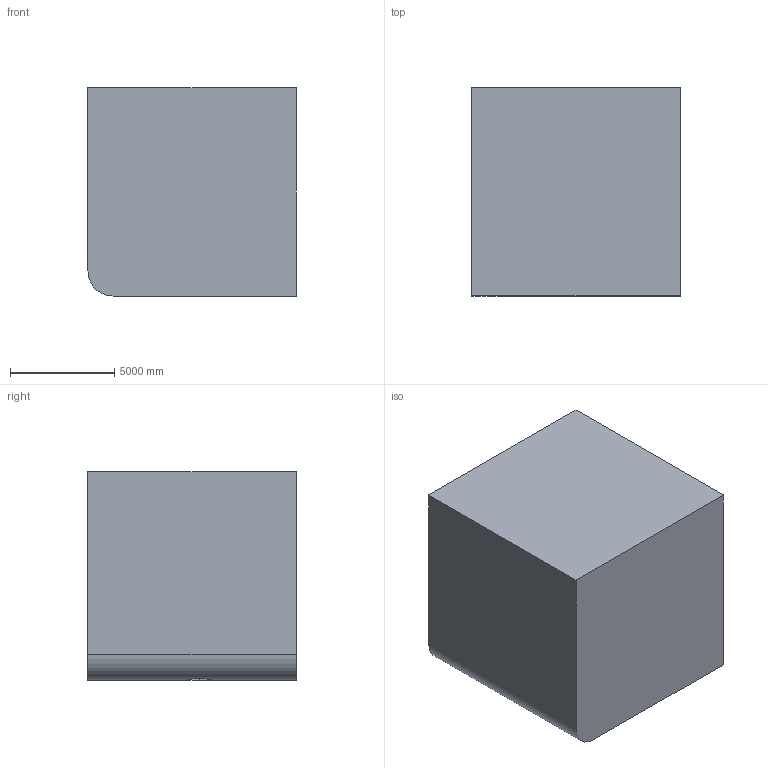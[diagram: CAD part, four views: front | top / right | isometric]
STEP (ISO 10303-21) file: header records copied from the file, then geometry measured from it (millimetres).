
FILE_DESCRIPTION (( 'STEP AP203' ), '1' );
FILE_NAME ('378.STEP', '2022-07-29T11:03:31', ( 'user' ), ( '' ), 'SwSTEP 2.0', 'SolidWorks 2021', '' );
FILE_SCHEMA (( 'CONFIG_CONTROL_DESIGN' ));
Length unit declared in the file: centimetre
Products named in the file (1): 378
Bounding box: 10000 x 10000 x 10000 mm (x, y, z)
Volume: 853628860784.2 mm3; surface area: 767437423.9 mm2
Topology: 1 solids, 1 shells, 22 faces, 60 edges, 40 vertices
Faces by surface type: plane 17, cylinder 5
Entity records: 862 total; most frequent: CARTESIAN_POINT 222, ORIENTED_EDGE 120, DIRECTION 114, EDGE_CURVE 60, VERTEX_POINT 40, LINE 40, VECTOR 40, AXIS2_PLACEMENT_3D 37
